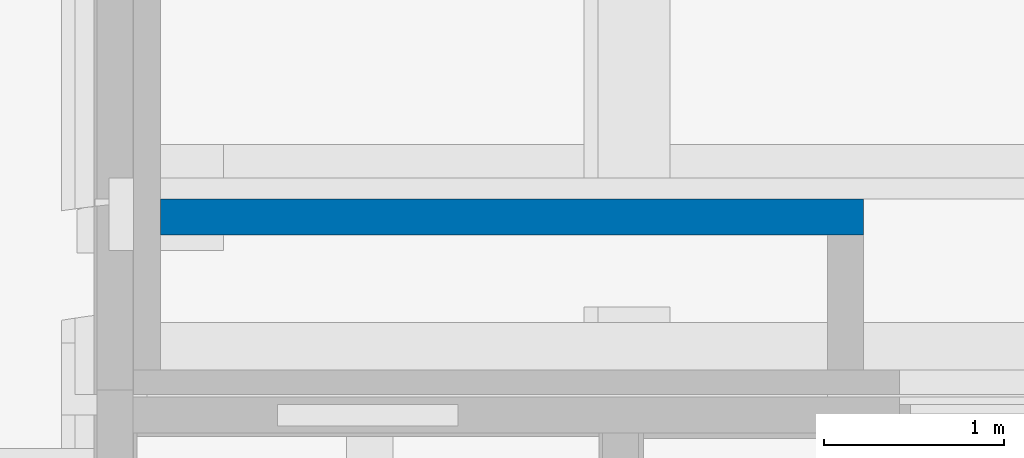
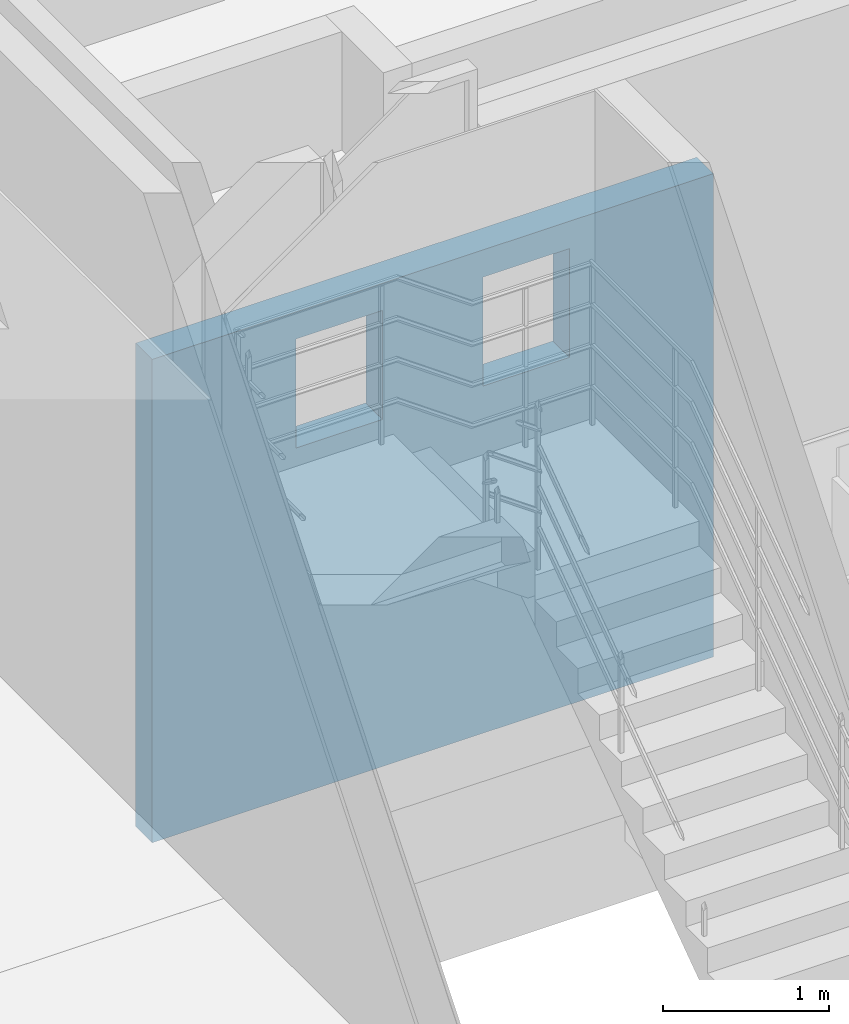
# One storey, part 48 of 100: 1 wall, 2 openings.
"""IFC2X3 building model written with IfcOpenShell, lengths in millimetres."""

from ifc_helpers import new_model, entity, si_unit, converted_unit, derived_unit, direction, frame, frame_2d, origin, place, context, subcontext, project, spatial, rectangle, extrude, material, layer, layer_set, layer_usage, type_object, element, save


model = new_model("IFC2X3")

# Units and contexts
model_context = context("Model", 3, precision=0.01, world=origin(), true_north=direction((6.123031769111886e-17, 1.0)))
body_context = subcontext(model_context, "Body", "Model", "MODEL_VIEW")
ifc_project = project(units=[si_unit("LENGTHUNIT", "METRE", prefix="MILLI"), si_unit("AREAUNIT", "SQUARE_METRE"), si_unit("VOLUMEUNIT", "CUBIC_METRE"), converted_unit("PLANEANGLEUNIT", "DEGREE", entity("IfcRatioMeasure", 0.017453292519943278), si_unit("PLANEANGLEUNIT", "RADIAN"), dimensions=[0, 0, 0, 0, 0, 0, 0]), si_unit("MASSUNIT", "GRAM", prefix="KILO"), derived_unit("MASSDENSITYUNIT", [(si_unit("MASSUNIT", "GRAM", prefix="KILO"), 1), (si_unit("LENGTHUNIT", "METRE"), -3)]), derived_unit("MOMENTOFINERTIAUNIT", [(si_unit("LENGTHUNIT", "METRE"), 4)]), si_unit("TIMEUNIT", "SECOND"), si_unit("FREQUENCYUNIT", "HERTZ"), si_unit("THERMODYNAMICTEMPERATUREUNIT", "DEGREE_CELSIUS"), derived_unit("THERMALTRANSMITTANCEUNIT", [(si_unit("MASSUNIT", "GRAM", prefix="KILO"), 1), (si_unit("THERMODYNAMICTEMPERATUREUNIT", "KELVIN"), -1), (si_unit("TIMEUNIT", "SECOND"), -3)]), derived_unit("VOLUMETRICFLOWRATEUNIT", [(si_unit("LENGTHUNIT", "METRE"), 3), (si_unit("TIMEUNIT", "SECOND"), -1)]), derived_unit("MASSFLOWRATEUNIT", [(si_unit("MASSUNIT", "GRAM", prefix="KILO"), 1), (si_unit("TIMEUNIT", "SECOND"), -1)]), derived_unit("ROTATIONALFREQUENCYUNIT", [(si_unit("TIMEUNIT", "SECOND"), -1)]), si_unit("ELECTRICCURRENTUNIT", "AMPERE"), si_unit("ELECTRICVOLTAGEUNIT", "VOLT"), si_unit("POWERUNIT", "WATT"), si_unit("FORCEUNIT", "NEWTON", prefix="KILO"), si_unit("ILLUMINANCEUNIT", "LUX"), si_unit("LUMINOUSFLUXUNIT", "LUMEN"), si_unit("LUMINOUSINTENSITYUNIT", "CANDELA"), derived_unit("USERDEFINED", [(si_unit("MASSUNIT", "GRAM", prefix="KILO"), -1), (si_unit("LENGTHUNIT", "METRE"), -2), (si_unit("TIMEUNIT", "SECOND"), 3), (si_unit("LUMINOUSFLUXUNIT", "LUMEN"), 1)]), derived_unit("SOUNDPOWERUNIT", [(si_unit("MASSUNIT", "GRAM", prefix="KILO"), 1), (si_unit("LENGTHUNIT", "METRE"), 2), (si_unit("TIMEUNIT", "SECOND"), -3)]), derived_unit("SOUNDPRESSUREUNIT", [(si_unit("MASSUNIT", "GRAM", prefix="KILO"), 1), (si_unit("LENGTHUNIT", "METRE"), -1), (si_unit("TIMEUNIT", "SECOND"), -2)]), derived_unit("LINEARVELOCITYUNIT", [(si_unit("LENGTHUNIT", "METRE"), 1), (si_unit("TIMEUNIT", "SECOND"), -1)]), si_unit("PRESSUREUNIT", "PASCAL"), derived_unit("USERDEFINED", [(si_unit("LENGTHUNIT", "METRE"), -2), (si_unit("MASSUNIT", "GRAM", prefix="KILO"), 1), (si_unit("TIMEUNIT", "SECOND"), -2)]), derived_unit("LINEARFORCEUNIT", [(si_unit("MASSUNIT", "GRAM", prefix="KILO"), 1), (si_unit("LENGTHUNIT", "METRE"), 1), (si_unit("TIMEUNIT", "SECOND"), -2), (si_unit("LENGTHUNIT", "METRE"), -1)]), derived_unit("PLANARFORCEUNIT", [(si_unit("MASSUNIT", "GRAM", prefix="KILO"), 1), (si_unit("LENGTHUNIT", "METRE"), 1), (si_unit("TIMEUNIT", "SECOND"), -2), (si_unit("LENGTHUNIT", "METRE"), -2)])], contexts=[model_context])

# Site, building, storey
site_placement = place(None, frame((-14167.972527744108, -657.2125860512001, 0.0)))
site = spatial("IfcSite", under=ifc_project, at=site_placement, Name="Default", CompositionType="ELEMENT")
building_placement = place(site_placement, origin())
building = spatial("IfcBuilding", under=site, at=building_placement, Name="Sample Building", CompositionType="ELEMENT")
storey_placement = place(building_placement, origin())
storey = spatial("IfcBuildingStorey", under=building, at=storey_placement, Name="지상 1층", CompositionType="ELEMENT", Elevation=0.0)

# Wall, openings
ifc_material = material(Name="KBIMS-콘크리트")
ifc_layer = layer(ifc_material, 200.0)
ifc_layer_set = layer_set([ifc_layer], Name="기본 벽:WA111-철근콘크리트구조 벽 200mm_CW1")
ifc_layer_usage = layer_usage(ifc_layer_set, "AXIS2", "NEGATIVE", 100.0)
wall_type = type_object("IfcWallType", Name="기본 벽:WA111-철근콘크리트구조 벽 200mm_CW1", PredefinedType="STANDARD", material=ifc_layer_set)
wall_placement = place(storey_placement, frame((30417.963761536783, 29157.21230798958, -550.0)))
wall = element("IfcWallStandardCase", 1, at=wall_placement, inside=storey, type_object=wall_type, material=ifc_layer_usage, Name="기본 벽:WA111-철근콘크리트구조 벽 200mm_CW1", ObjectType="기본 벽:WA111-철근콘크리트구조 벽 200mm_CW1", context=body_context, shape_type="SweptSolid", body=[
    extrude(rectangle(XDim=3898.569432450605, YDim=199.99999999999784, at=frame_2d((1949.2847162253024, 0.0), x_axis=(-1.0, 0.0))), origin(), (0.0, 0.0, 1.0), 3550.0000000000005),
])
opening_1_placement = place(wall_placement, frame((999.5231441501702, -100.0, 2550.0)))
element("IfcOpeningElement", 2, at=opening_1_placement, cuts=wall, Name="WD733-그릴창(알루미늄):WD733-그릴창(알루미늄)_600x800mm:1", ObjectType="Opening", context=body_context, shape_type="SweptSolid", body=[
    extrude(rectangle(XDim=800.0000000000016, YDim=600.0000000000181, at=frame_2d((400.00000000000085, 300.0000000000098), x_axis=(-1.0, 0.0))), frame((0.0, 0.0, 0.0), z_axis=(0.0, 1.0, 0.0), x_axis=(0.0, 0.0, 1.0)), (0.0, 0.0, 1.0), 200.0),
])
opening_2_placement = place(wall_placement, frame((2299.0462883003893, -100.0, 2550.0)))
element("IfcOpeningElement", 3, at=opening_2_placement, cuts=wall, Name="WD733-그릴창(알루미늄):WD733-그릴창(알루미늄)_600x800mm:1", ObjectType="Opening", context=body_context, shape_type="SweptSolid", body=[
    extrude(rectangle(XDim=800.0000000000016, YDim=600.0000000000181, at=frame_2d((400.00000000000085, 300.0000000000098), x_axis=(-1.0, 0.0))), frame((0.0, 0.0, 0.0), z_axis=(0.0, 1.0, 0.0), x_axis=(0.0, 0.0, 1.0)), (0.0, 0.0, 1.0), 200.0),
])

save(model, "model.ifc")
